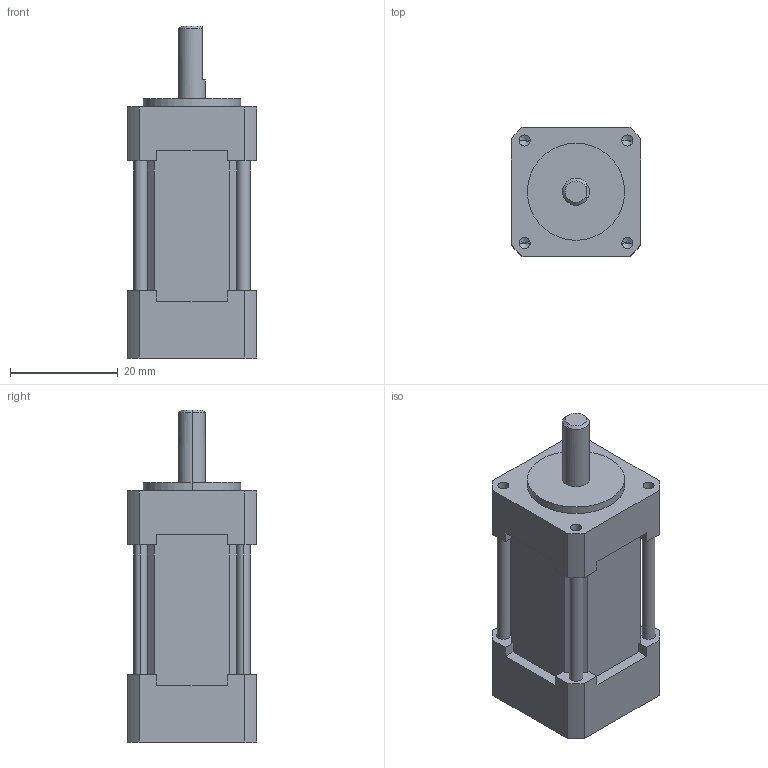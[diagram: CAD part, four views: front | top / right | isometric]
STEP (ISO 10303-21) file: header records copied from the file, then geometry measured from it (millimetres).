
FILE_DESCRIPTION (( 'STEP AP214' ), '1' );
FILE_NAME ('TS3664N2E3.STEP', '2016-09-09T06:41:04', ( 'hoho' ), ( '' ), 'SwSTEP 2.0', 'SolidWorks 2013', '' );
FILE_SCHEMA (( 'AUTOMOTIVE_DESIGN' ));
Length unit declared in the file: millimetre
Products named in the file (1): TS3664N2E3
Bounding box: 24 x 24 x 61.5 mm (x, y, z)
Volume: 22563.5 mm3; surface area: 6471.1 mm2
Topology: 1 solids, 1 shells, 92 faces, 254 edges, 162 vertices
Faces by surface type: plane 54, cylinder 28, cone 10
Entity records: 3096 total; most frequent: CARTESIAN_POINT 513, ORIENTED_EDGE 492, DIRECTION 490, EDGE_CURVE 246, LINE 184, VECTOR 184, VERTEX_POINT 162, AXIS2_PLACEMENT_3D 153
